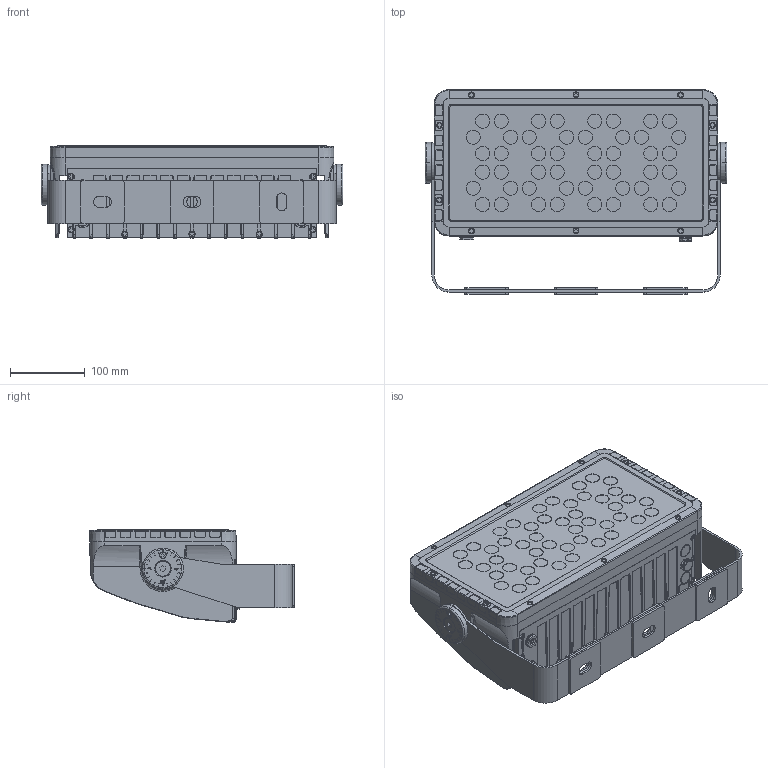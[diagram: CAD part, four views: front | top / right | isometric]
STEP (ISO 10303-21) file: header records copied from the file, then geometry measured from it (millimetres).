
FILE_DESCRIPTION (( 'STEP AP214' ), '1' );
FILE_NAME ('Beam F120 power balance.STEP', '2025-06-10T09:33:19', ( '' ), ( '' ), 'SwSTEP 2.0', 'SolidWorks 2025', '' );
FILE_SCHEMA (( 'AUTOMOTIVE_DESIGN' ));
Length unit declared in the file: millimetre
Products named in the file (4): Beam F120 - Bracket; Beam F120 - Body_Power balance without louvre; Beam F120 power balance; Beam F120 & F250 - Bracket protector
Assembly tree (8 placements, depth 2):
  Beam F120 power balance
    Beam F120 - Bracket
    Beam F120 - Body_Power balance without louvre
    Beam F120 & F250 - Bracket protector  x6
Bounding box: 404 x 274 x 123.5 mm (x, y, z)
Volume: 5081164.8 mm3; surface area: 710556.4 mm2
Topology: 9 solids, 9 shells, 3282 faces, 8291 edges, 5186 vertices
Faces by surface type: plane 1563, cylinder 1031, torus 272, bspline 190, cone 136, sphere 90
Full cylindrical faces by diameter (mm): 14 x1, 19 x48
Entity records: 121819 total; most frequent: CARTESIAN_POINT 52304, ORIENTED_EDGE 15966, DIRECTION 11746, EDGE_CURVE 7983, VERTEX_POINT 5013, AXIS2_PLACEMENT_3D 4104, VECTOR 3538, LINE 3538
